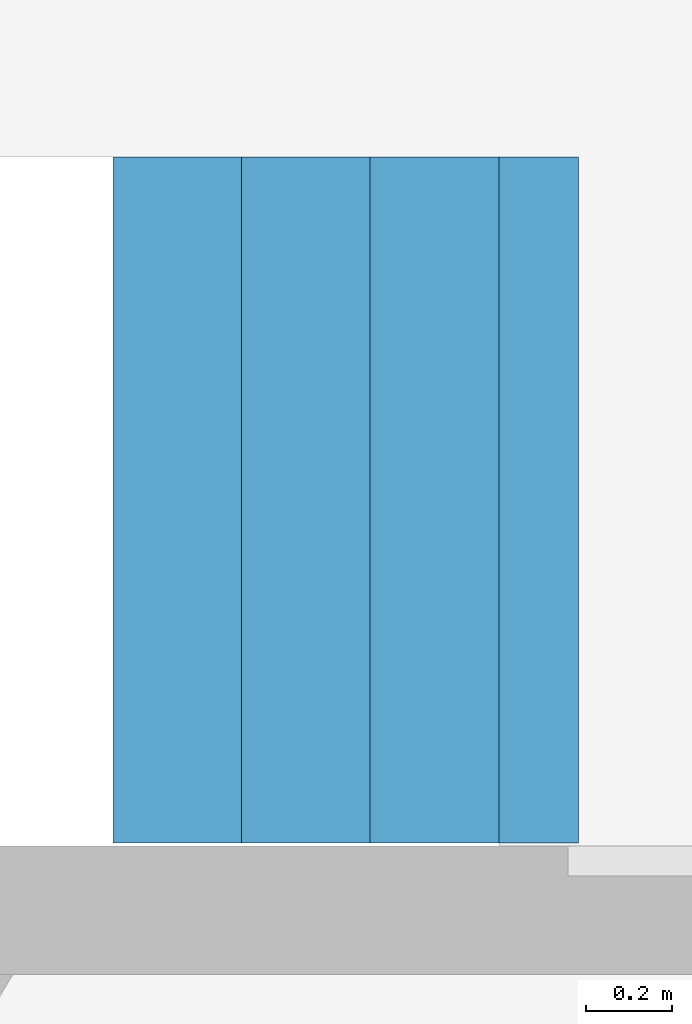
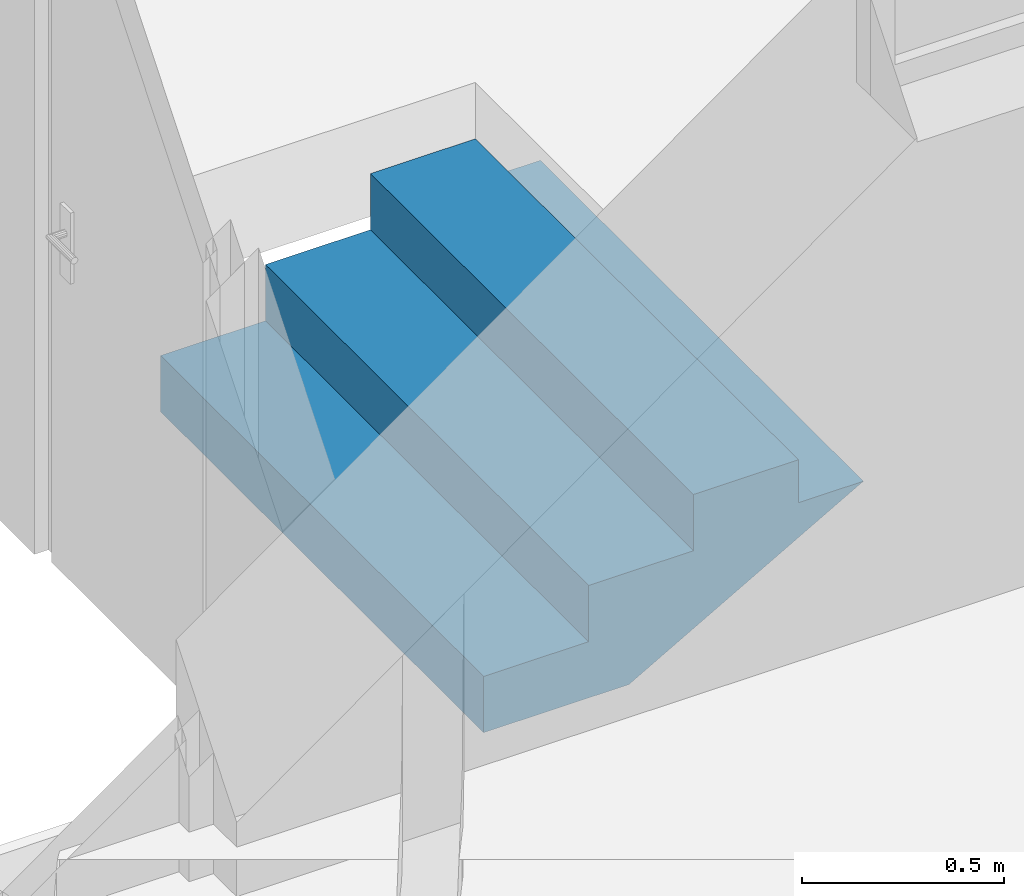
"""IFC4 building model written with IfcOpenShell, lengths in metres."""

import ifcopenshell
import ifcopenshell.guid

model = None  # the IFC model being written
_history = None  # IfcOwnerHistory: only IFC2X3 demands one
_inside = {}  # id of a spatial element -> (the spatial element, [elements in it])
_under = {}  # id of a project, library or spatial element -> (it, [spatial elements below it])
_declared = {}  # id of a project -> (the project, [libraries it declares])
_typed = {}  # id of a type object -> (the type object, [elements of that type])
_made_of = {}  # id of a material, layer set ... -> (it, [elements and type objects made of it])


def new_model(schema):
    """Start an empty IFC model of exactly this schema.

    Asked for "IFC4X3", IfcOpenShell would pick the latest addendum, in which some entities
    have other attributes; the version numbers below select the first issue.
    IFC2X3 requires an IfcOwnerHistory on every rooted entity: one is made here for all.
    """
    global model, _history
    if schema == "IFC4X3":
        model = ifcopenshell.file(schema_version=(4, 3, 0, 0))
    else:
        model = ifcopenshell.file(schema=schema)
    _inside.clear()
    _under.clear()
    _declared.clear()
    _typed.clear()
    _made_of.clear()
    _history = None
    if model.schema == "IFC2X3":
        org = make("IfcOrganization", Name="unknown")
        user = make(
            "IfcPersonAndOrganization",
            ThePerson=make("IfcPerson", FamilyName="unknown"),
            TheOrganization=org,
        )
        app = make(
            "IfcApplication",
            ApplicationDeveloper=org,
            Version="unknown",
            ApplicationFullName="unknown",
            ApplicationIdentifier="unknown",
        )
        _history = make(
            "IfcOwnerHistory",
            OwningUser=user,
            OwningApplication=app,
            ChangeAction="ADDED",
            CreationDate=0,
        )
    return model


def make(cls, **values):
    """One entity of the class cls with the attributes given. An attribute that is None is left unset."""
    return model.create_entity(
        cls, **{name: value for name, value in values.items() if value is not None}
    )


def entity(cls, *values):
    """Any entity or typed value of the class cls, its attributes in the order of the schema. None: left unset."""
    e = model.create_entity(cls)
    for i, value in enumerate(values):
        if value is not None:
            e[i] = value
    return e


def rooted(cls, **values):
    """An entity with a GlobalId (a new one), such as an element, a storey or a relation."""
    return make(cls, GlobalId=ifcopenshell.guid.new(), OwnerHistory=_history, **values)


def si_unit(unit_type, name, prefix=None):
    """IfcSIUnit, for example si_unit("LENGTHUNIT", "METRE", prefix="MILLI")."""
    return make("IfcSIUnit", UnitType=unit_type, Prefix=prefix, Name=name)


def converted_unit(unit_type, name, factor, base, dimensions=None, offset=None):
    """IfcConversionBasedUnit, such as the inch: factor (a typed value) times the base unit."""
    return make(
        "IfcConversionBasedUnit"
        if offset is None
        else "IfcConversionBasedUnitWithOffset",
        ConversionOffset=offset,
        Dimensions=None
        if dimensions is None
        else entity("IfcDimensionalExponents", *dimensions),
        UnitType=unit_type,
        Name=name,
        ConversionFactor=make(
            "IfcMeasureWithUnit", ValueComponent=factor, UnitComponent=base
        ),
    )


def derived_unit(unit_type, elements):
    """IfcDerivedUnit: a product of units, each with its exponent."""
    return make(
        "IfcDerivedUnit",
        Elements=[
            make("IfcDerivedUnitElement", Unit=unit, Exponent=power)
            for unit, power in elements
        ],
        UnitType=unit_type,
    )


def assignment(units):
    """IfcUnitAssignment: the units of a project."""
    return None if units is None else make("IfcUnitAssignment", Units=units)


def point(xyz):
    """IfcCartesianPoint."""
    return None if xyz is None else make("IfcCartesianPoint", Coordinates=xyz)


def direction(xyz):
    """IfcDirection."""
    return None if xyz is None else make("IfcDirection", DirectionRatios=xyz)


def frame(location, z_axis=None, x_axis=None):
    """IfcAxis2Placement3D, a coordinate frame: its origin and axes. An axis left out is left unset."""
    return make(
        "IfcAxis2Placement3D",
        Location=point(location),
        Axis=direction(z_axis),
        RefDirection=direction(x_axis),
    )


def origin():
    """The frame at (0, 0, 0) with its axes left unset."""
    return frame((0.0, 0.0, 0.0))


def place(relative_to, where):
    """IfcLocalPlacement: puts the frame where relative to a parent placement (None: the world)."""
    return make(
        "IfcLocalPlacement", PlacementRelTo=relative_to, RelativePlacement=where
    )


def context(
    kind, dimensions, precision=None, world=None, true_north=None, identifier=None
):
    """IfcGeometricRepresentationContext, for example the 3D "Model" context."""
    return make(
        "IfcGeometricRepresentationContext",
        ContextIdentifier=identifier,
        ContextType=kind,
        CoordinateSpaceDimension=dimensions,
        Precision=precision,
        WorldCoordinateSystem=world,
        TrueNorth=true_north,
    )


def subcontext(parent, identifier, kind, view, scale=None):
    """IfcGeometricRepresentationSubContext, for example "Body" below "Model"."""
    return make(
        "IfcGeometricRepresentationSubContext",
        ContextIdentifier=identifier,
        ContextType=kind,
        ParentContext=parent,
        TargetScale=scale,
        TargetView=view,
    )


def project(units=None, contexts=None):
    """IfcProject with its units and contexts."""
    return rooted(
        "IfcProject",
        Name="project",
        RepresentationContexts=contexts,
        UnitsInContext=assignment(units),
    )


def spatial(cls, under=None, at=None, **own):
    """A site, building, storey or space (cls), placed at a placement, below another one or the project."""
    s = rooted(cls, ObjectPlacement=at, **own)
    if under is not None:
        _under.setdefault(under.id(), (under, []))[1].append(s)
    return s


def faces_of(points, faces, orient=None, outer=None):
    """IfcFace entities. A face is a list of loops; a loop is a list of indices into points, from 0.

    orient and outer hold one flag for each loop. By default every Orientation is true, the
    first loop of a face is its IfcFaceOuterBound and the others are IfcFaceBound.
    """
    made = []
    for i, loops in enumerate(faces):
        bounds = []
        for j, loop in enumerate(loops):
            is_outer = j == 0 if outer is None else outer[i][j]
            bounds.append(
                make(
                    "IfcFaceOuterBound" if is_outer else "IfcFaceBound",
                    Bound=make("IfcPolyLoop", Polygon=[points[k] for k in loop]),
                    Orientation=True if orient is None else orient[i][j],
                )
            )
        made.append(make("IfcFace", Bounds=bounds))
    return made


def faceted_brep(points, faces, orient=None, outer=None, voids=None):
    """IfcFacetedBrep: a solid bounded by flat faces; with voids (closed shells), ...WithVoids."""
    shared = [point(p) for p in points]
    hull = make("IfcClosedShell", CfsFaces=faces_of(shared, faces, orient, outer))
    if voids is None:
        return make("IfcFacetedBrep", Outer=hull)
    return make(
        "IfcFacetedBrepWithVoids",
        Outer=hull,
        Voids=[
            make(cls, CfsFaces=faces_of(shared, fs, o, b)) for cls, fs, o, b in voids
        ],
    )


def shape(context_of_items, identifier, shape_type, items):
    """IfcShapeRepresentation: the items that make up one representation, for example the "Body"."""
    return make(
        "IfcShapeRepresentation",
        ContextOfItems=context_of_items,
        RepresentationIdentifier=identifier,
        RepresentationType=shape_type,
        Items=items,
    )


def made_of(thing, what):
    """Note that an element or type object is made of a material, layer set ...; save() writes the relation."""
    if what is not None:
        _made_of.setdefault(what.id(), (what, []))[1].append(thing)
    return thing


def element(
    cls,
    number,
    at=None,
    inside=None,
    cuts=None,
    type_object=None,
    material=None,
    context=None,
    identifier="Body",
    shape_type=None,
    held_by="IfcProductDefinitionShape",
    body=None,
    shapes=None,
    **own,
):
    """One element of the class cls, such as IfcWall. Its Tag is "e" and its number.

    at: its placement. inside: the storey or other place that contains it. cuts: it is an
    opening in that element (IfcRelVoidsElement). A single representation is given by context,
    identifier, shape_type and body (its items); several are given by shapes. held_by: the class
    of the entity that holds the representations. save() writes the other relations.
    """
    e = rooted(cls, Tag="e%d" % number, ObjectPlacement=at, **own)
    if body is not None:
        shapes = [shape(context, identifier, shape_type, body)]
    if shapes is not None:
        e.Representation = make(held_by, Representations=shapes)
    if inside is not None:
        _inside.setdefault(inside.id(), (inside, []))[1].append(e)
    if cuts is not None:
        rooted(
            "IfcRelVoidsElement", RelatingBuildingElement=cuts, RelatedOpeningElement=e
        )
    if type_object is not None:
        _typed.setdefault(type_object.id(), (type_object, []))[1].append(e)
    return made_of(e, material)


def aggregate(whole, parts):
    """IfcRelAggregates: a whole, such as a stair, and the parts it consists of."""
    return rooted("IfcRelAggregates", RelatingObject=whole, RelatedObjects=parts)


def save(model, path):
    """Write the relations noted so far, then the file.

    IfcRelAggregates (storeys below a building ...), IfcRelContainedInSpatialStructure (elements
    in a storey), IfcRelDefinesByType, IfcRelAssociatesMaterial and IfcRelDeclares: one each for
    every whole, place, type object, material and project.
    """
    for whole, parts in _under.values():
        aggregate(whole, parts)
    for where, things in _inside.values():
        rooted(
            "IfcRelContainedInSpatialStructure",
            RelatedElements=things,
            RelatingStructure=where,
        )
    for kind, things in _typed.values():
        rooted("IfcRelDefinesByType", RelatedObjects=things, RelatingType=kind)
    for what, things in _made_of.values():
        rooted("IfcRelAssociatesMaterial", RelatedObjects=things, RelatingMaterial=what)
    for by, libraries in _declared.values():
        rooted("IfcRelDeclares", RelatingContext=by, RelatedDefinitions=libraries)
    model.write(path)


model = new_model("IFC4")

# Units and contexts
model_context = context("Model", 3, precision=1e-05, world=origin())
body_context = subcontext(model_context, "Body", "Model", "MODEL_VIEW")
ifc_project = project(units=[si_unit("LENGTHUNIT", "METRE"), si_unit("AREAUNIT", "SQUARE_METRE"), si_unit("VOLUMEUNIT", "CUBIC_METRE"), si_unit("MASSUNIT", "GRAM", prefix="KILO"), converted_unit("PLANEANGLEUNIT", "DEGREE", entity("IfcPlaneAngleMeasure", 0.0174532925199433), si_unit("PLANEANGLEUNIT", "RADIAN"), dimensions=[0, 0, 0, 0, 0, 0, 0]), derived_unit("THERMALTRANSMITTANCEUNIT", [(si_unit("POWERUNIT", "WATT"), 1), (si_unit("THERMODYNAMICTEMPERATUREUNIT", "KELVIN"), -1), (si_unit("LENGTHUNIT", "METRE"), -2)]), derived_unit("VOLUMETRICFLOWRATEUNIT", [(si_unit("LENGTHUNIT", "METRE"), 3), (converted_unit("TIMEUNIT", "hour", entity("IfcTimeMeasure", 3600.0), si_unit("TIMEUNIT", "SECOND"), dimensions=[0, 0, 1, 0, 0, 0, 0]), -1), (si_unit("LENGTHUNIT", "METRE"), -1)])], contexts=[model_context])

# Building, storeys
building_placement = place(None, origin())
building = spatial("IfcBuilding", under=ifc_project, at=building_placement, Name="HABITATGE PLURIFAMILIAR", CompositionType="ELEMENT")
storey_1_placement = place(building_placement, frame((0.0, 0.0, 21.2)))
storey_1 = spatial("IfcBuildingStorey", under=building, at=storey_1_placement, Name="PLANTA SOTACOBERTA", CompositionType="ELEMENT", Elevation=21.2)
storey_2_placement = place(storey_1_placement, origin())
storey_2 = spatial("IfcBuildingStorey", under=storey_1, at=storey_2_placement, Name="NOU", CompositionType="PARTIAL")

# Stair
stair_placement = place(storey_2_placement, frame((417.505431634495, 24.3170914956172, 0.0)))
element("IfcStair", 1, at=stair_placement, inside=storey_2, Name="Escala PSC", PredefinedType="NOTDEFINED", context=body_context, shape_type="Brep", body=[
    faceted_brep([(0.0, 1.6, 0.13), (0.0, 1.6, 0.17), (0.0, 0.0, 0.17), (0.0, 0.0, 0.13), (0.3, 0.0, 0.17), (0.3, 0.0, 0.13), (0.3, 1.6, 0.17), (0.3, 1.6, 0.13)], [[[0, 1, 2, 3]], [[3, 2, 4, 5]], [[5, 4, 6, 7]], [[7, 6, 1, 0]], [[0, 3, 5, 7]], [[1, 6, 4, 2]]], orient=[[False], [False], [False], [False], [False], [False]]),
    faceted_brep([(0.3, 1.6, 0.3), (0.3, 1.6, 0.34), (0.3, 0.0, 0.34), (0.3, 0.0, 0.3), (0.6, 0.0, 0.34), (0.6, 0.0, 0.3), (0.6, 1.6, 0.34), (0.6, 1.6, 0.3)], [[[0, 1, 2, 3]], [[3, 2, 4, 5]], [[5, 4, 6, 7]], [[7, 6, 1, 0]], [[0, 3, 5, 7]], [[1, 6, 4, 2]]], orient=[[False], [False], [False], [False], [False], [False]]),
    faceted_brep([(0.6, 1.6, 0.47), (0.6, 1.6, 0.51), (0.6, 0.0, 0.51), (0.6, 0.0, 0.47), (0.9, 0.0, 0.51), (0.9, 0.0, 0.47), (0.9, 1.6, 0.51), (0.9, 1.6, 0.47)], [[[0, 1, 2, 3]], [[3, 2, 4, 5]], [[5, 4, 6, 7]], [[7, 6, 1, 0]], [[0, 3, 5, 7]], [[1, 6, 4, 2]]], orient=[[False], [False], [False], [False], [False], [False]]),
    faceted_brep([(0.9, 0.0, 0.47), (0.6, 0.0, 0.47), (0.6, 1.6, 0.47), (0.9, 1.6, 0.47), (0.415284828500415, 0.0, 0.0), (0.0, 0.0, 0.0), (0.0, 0.0, 0.13), (0.3, 0.0, 0.13), (0.3, 0.0, 0.3), (0.6, 0.0, 0.3), (0.9, 0.0, 0.38), (1.08587306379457, 0.0, 0.38), (0.6, 1.6, 0.3), (1.08587306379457, 1.6, 0.38), (0.9, 1.6, 0.38), (0.3, 1.6, 0.3), (0.3, 1.6, 0.13), (0.0, 1.6, 0.13), (0.0, 1.6, 0.0), (0.415284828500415, 1.6, 0.0)], [[[0, 1, 2, 3]], [[4, 5, 6, 7, 8, 9, 1, 0, 10, 11]], [[1, 9, 12, 2]], [[13, 14, 3, 2, 12, 15, 16, 17, 18, 19]], [[13, 19, 4, 11]], [[14, 13, 11, 10]], [[9, 8, 15, 12]], [[8, 7, 16, 15]], [[7, 6, 17, 16]], [[6, 5, 18, 17]], [[5, 4, 19, 18]], [[14, 10, 0, 3]]], orient=[[False], [False], [False], [False], [False], [False], [False], [False], [False], [False], [False], [False]]),
])

save(model, "model.ifc")
